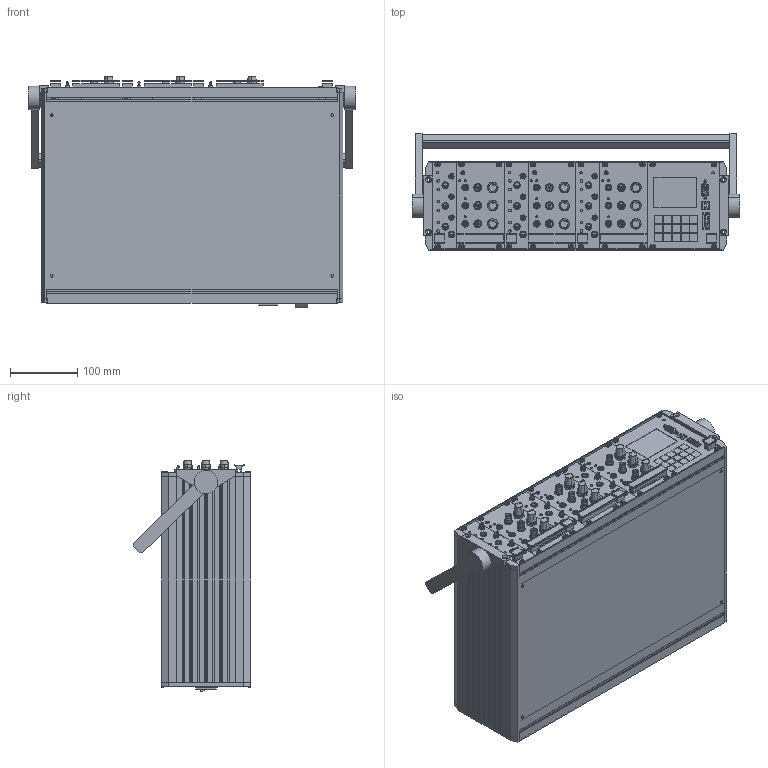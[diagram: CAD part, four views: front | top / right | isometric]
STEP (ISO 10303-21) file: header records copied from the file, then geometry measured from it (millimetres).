
FILE_DESCRIPTION (( 'STEP AP203' ), '1' );
FILE_NAME ('E00.STEP', '2022-08-24T03:29:21', ( 'User' ), ( 'china' ), 'SwSTEP 2.0', 'SolidWorks 2016', '' );
FILE_SCHEMA (( 'CONFIG_CONTROL_DESIGN' ));
Products named in the file (1): E00
Bounding box: 489.2 x 174.98 x 345.54 mm (x, y, z)
Surface area: 735663.7 mm2 (no closed solid volume)
Topology: 0 solids, 247 shells, 1865 faces, 8962 edges, 7171 vertices
Faces by surface type: plane 898, cylinder 684, cone 203, sphere 42, bspline 31, torus 7
Entity records: 96114 total; most frequent: CARTESIAN_POINT 23096, DIRECTION 15850, ORIENTED_EDGE 12063, EDGE_CURVE 8885, VERTEX_POINT 7136, AXIS2_PLACEMENT_3D 5706, VECTOR 4438, LINE 4438
